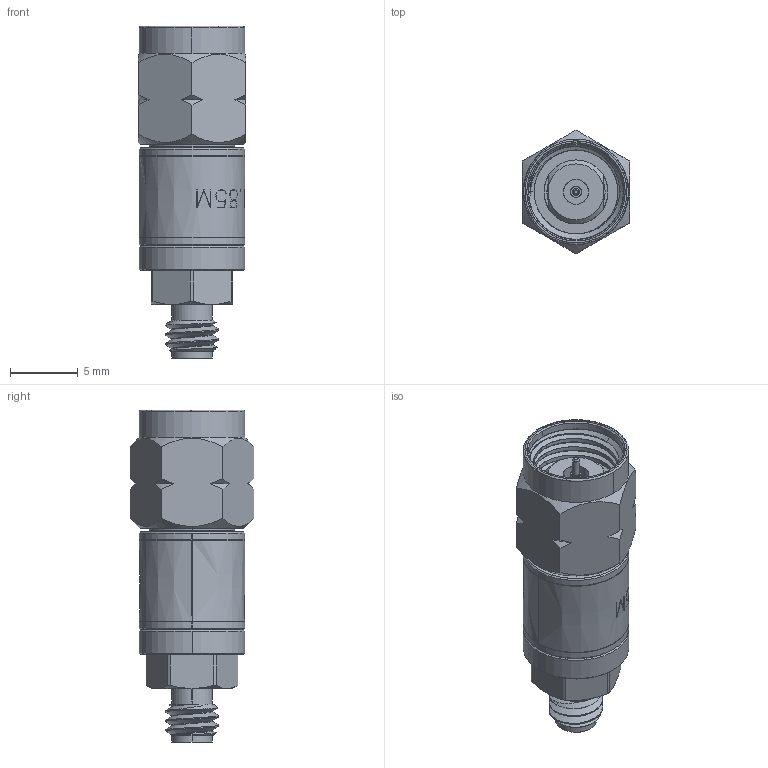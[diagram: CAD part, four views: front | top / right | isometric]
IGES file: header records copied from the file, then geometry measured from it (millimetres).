
Start section: SolidWorks IGES file using analytic representation for surfaces
Global section: file name: C:\Users\sculpepper\Desktop\2234000K001-836-C\2234000K001-836-Cigs.IGS; native system: SolidWorks 2019; preprocessor: SolidWorks 2019; author: sculpepper; date: 201029.163624; units: inch
Bounding box: 7.92 x 9.15 x 24.55 mm (x, y, z)
Surface area: 1185.3 mm2 (no closed solid volume)
Topology: 0 solids, 0 shells, 382 faces, 4177 edges, 4177 vertices
Faces by surface type: bspline 238, revolution 144
